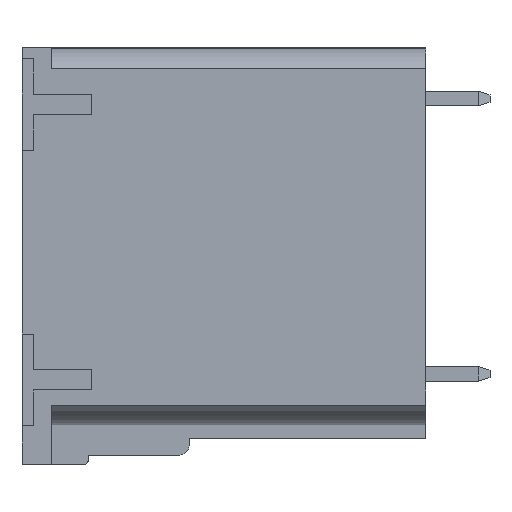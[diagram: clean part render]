
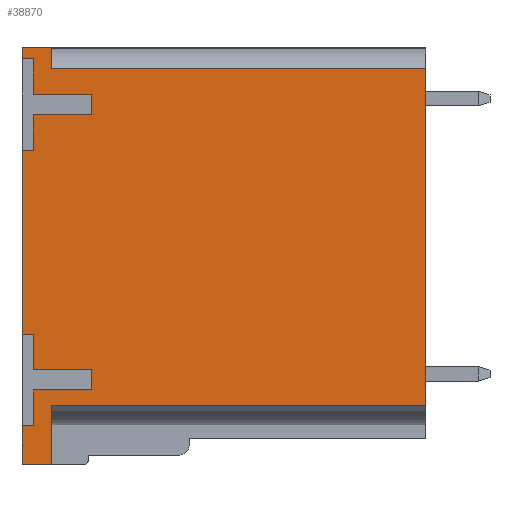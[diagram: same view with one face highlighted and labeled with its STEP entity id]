
A CAD part, left-side view. The second image highlights one B-rep face of the part: STEP entity #38870.
In plain terms, the highlighted planar face has unit normal (-1, 0, 0).
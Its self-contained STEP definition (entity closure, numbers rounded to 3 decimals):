
#18165=DIRECTION('',(0.,1.,0.));
#18166=VECTOR('',#18165,1.6);
#18167=CARTESIAN_POINT('',(2.805,20.4,-22.7));
#18168=LINE('',#18167,#18166);
#18193=DIRECTION('',(0.,0.,-1.));
#18194=VECTOR('',#18193,2.1);
#18195=CARTESIAN_POINT('',(2.805,22.,-20.6));
#18196=LINE('',#18195,#18194);
#18197=DIRECTION('',(0.,0.,-1.));
#18198=VECTOR('',#18197,10.);
#18199=CARTESIAN_POINT('',(2.805,22.,-5.6));
#18200=LINE('',#18199,#18198);
#18201=DIRECTION('',(0.,0.,-1.));
#18202=VECTOR('',#18201,0.6);
#18203=CARTESIAN_POINT('',(2.805,22.,0.));
#18204=LINE('',#18203,#18202);
#18205=DIRECTION('',(0.,1.,0.));
#18206=VECTOR('',#18205,1.6);
#18207=CARTESIAN_POINT('',(2.805,20.4,0.));
#18208=LINE('',#18207,#18206);
#18209=DIRECTION('',(0.,0.,1.));
#18210=VECTOR('',#18209,18.34);
#18211=CARTESIAN_POINT('',(2.805,0.,-19.47));
#18212=LINE('',#18211,#18210);
#18213=DIRECTION('',(0.,1.,0.));
#18214=VECTOR('',#18213,20.4);
#18215=CARTESIAN_POINT('',(2.805,0.,-19.47));
#18216=LINE('',#18215,#18214);
#18263=DIRECTION('',(0.,0.,-1.));
#18264=VECTOR('',#18263,3.23);
#18265=CARTESIAN_POINT('',(2.805,20.4,-19.47));
#18266=LINE('',#18265,#18264);
#18272=DIRECTION('',(0.,-1.,0.));
#18273=VECTOR('',#18272,0.6);
#18274=CARTESIAN_POINT('',(2.805,22.,-20.6));
#18275=LINE('',#18274,#18273);
#18284=DIRECTION('',(0.,0.,1.));
#18285=VECTOR('',#18284,1.95);
#18286=CARTESIAN_POINT('',(2.805,21.4,-20.6));
#18287=LINE('',#18286,#18285);
#18300=DIRECTION('',(0.,-1.,0.));
#18301=VECTOR('',#18300,3.2);
#18302=CARTESIAN_POINT('',(2.805,21.4,-18.65));
#18303=LINE('',#18302,#18301);
#18312=DIRECTION('',(0.,0.,1.));
#18313=VECTOR('',#18312,1.1);
#18314=CARTESIAN_POINT('',(2.805,18.2,-18.65));
#18315=LINE('',#18314,#18313);
#18324=DIRECTION('',(0.,1.,0.));
#18325=VECTOR('',#18324,3.2);
#18326=CARTESIAN_POINT('',(2.805,18.2,-17.55));
#18327=LINE('',#18326,#18325);
#18336=DIRECTION('',(0.,0.,1.));
#18337=VECTOR('',#18336,1.95);
#18338=CARTESIAN_POINT('',(2.805,21.4,-17.55));
#18339=LINE('',#18338,#18337);
#18348=DIRECTION('',(0.,1.,0.));
#18349=VECTOR('',#18348,0.6);
#18350=CARTESIAN_POINT('',(2.805,21.4,-15.6));
#18351=LINE('',#18350,#18349);
#18364=DIRECTION('',(0.,-1.,0.));
#18365=VECTOR('',#18364,0.6);
#18366=CARTESIAN_POINT('',(2.805,22.,-5.6));
#18367=LINE('',#18366,#18365);
#18376=DIRECTION('',(0.,0.,1.));
#18377=VECTOR('',#18376,1.95);
#18378=CARTESIAN_POINT('',(2.805,21.4,-5.6));
#18379=LINE('',#18378,#18377);
#18392=DIRECTION('',(0.,-1.,0.));
#18393=VECTOR('',#18392,3.2);
#18394=CARTESIAN_POINT('',(2.805,21.4,-3.65));
#18395=LINE('',#18394,#18393);
#18404=DIRECTION('',(0.,0.,1.));
#18405=VECTOR('',#18404,1.1);
#18406=CARTESIAN_POINT('',(2.805,18.2,-3.65));
#18407=LINE('',#18406,#18405);
#18416=DIRECTION('',(0.,1.,0.));
#18417=VECTOR('',#18416,3.2);
#18418=CARTESIAN_POINT('',(2.805,18.2,-2.55));
#18419=LINE('',#18418,#18417);
#18428=DIRECTION('',(0.,0.,1.));
#18429=VECTOR('',#18428,1.95);
#18430=CARTESIAN_POINT('',(2.805,21.4,-2.55));
#18431=LINE('',#18430,#18429);
#18440=DIRECTION('',(0.,1.,0.));
#18441=VECTOR('',#18440,0.6);
#18442=CARTESIAN_POINT('',(2.805,21.4,-0.6));
#18443=LINE('',#18442,#18441);
#18456=DIRECTION('',(0.,0.,-1.));
#18457=VECTOR('',#18456,1.13);
#18458=CARTESIAN_POINT('',(2.805,20.4,0.));
#18459=LINE('',#18458,#18457);
#18505=DIRECTION('',(0.,-1.,0.));
#18506=VECTOR('',#18505,20.4);
#18507=CARTESIAN_POINT('',(2.805,20.4,-1.13));
#18508=LINE('',#18507,#18506);
#22273=CARTESIAN_POINT('',(2.805,0.,-19.47));
#22274=VERTEX_POINT('',#22273);
#22275=CARTESIAN_POINT('',(2.805,0.,-1.13));
#22276=VERTEX_POINT('',#22275);
#22407=CARTESIAN_POINT('',(2.805,20.4,0.));
#22408=VERTEX_POINT('',#22407);
#22409=CARTESIAN_POINT('',(2.805,22.,0.));
#22410=VERTEX_POINT('',#22409);
#22529=CARTESIAN_POINT('',(2.805,22.,-0.6));
#22530=VERTEX_POINT('',#22529);
#22535=CARTESIAN_POINT('',(2.805,22.,-5.6));
#22536=VERTEX_POINT('',#22535);
#22537=CARTESIAN_POINT('',(2.805,22.,-15.6));
#22538=VERTEX_POINT('',#22537);
#22543=CARTESIAN_POINT('',(2.805,22.,-20.6));
#22544=VERTEX_POINT('',#22543);
#22545=CARTESIAN_POINT('',(2.805,22.,-22.7));
#22546=VERTEX_POINT('',#22545);
#22587=CARTESIAN_POINT('',(2.805,20.4,-19.47));
#22588=CARTESIAN_POINT('',(2.805,20.4,-22.7));
#22589=VERTEX_POINT('',#22587);
#22590=VERTEX_POINT('',#22588);
#22591=CARTESIAN_POINT('',(2.805,21.4,-20.6));
#22592=VERTEX_POINT('',#22591);
#22593=CARTESIAN_POINT('',(2.805,21.4,-18.65));
#22594=VERTEX_POINT('',#22593);
#22595=CARTESIAN_POINT('',(2.805,18.2,-18.65));
#22596=VERTEX_POINT('',#22595);
#22597=CARTESIAN_POINT('',(2.805,18.2,-17.55));
#22598=VERTEX_POINT('',#22597);
#22599=CARTESIAN_POINT('',(2.805,21.4,-17.55));
#22600=VERTEX_POINT('',#22599);
#22601=CARTESIAN_POINT('',(2.805,21.4,-15.6));
#22602=VERTEX_POINT('',#22601);
#22603=CARTESIAN_POINT('',(2.805,21.4,-5.6));
#22604=VERTEX_POINT('',#22603);
#22605=CARTESIAN_POINT('',(2.805,21.4,-3.65));
#22606=VERTEX_POINT('',#22605);
#22607=CARTESIAN_POINT('',(2.805,18.2,-3.65));
#22608=VERTEX_POINT('',#22607);
#22609=CARTESIAN_POINT('',(2.805,18.2,-2.55));
#22610=VERTEX_POINT('',#22609);
#22611=CARTESIAN_POINT('',(2.805,21.4,-2.55));
#22612=VERTEX_POINT('',#22611);
#22613=CARTESIAN_POINT('',(2.805,21.4,-0.6));
#22614=VERTEX_POINT('',#22613);
#22615=CARTESIAN_POINT('',(2.805,20.4,-1.13));
#22616=VERTEX_POINT('',#22615);
#38821=CARTESIAN_POINT('',(2.805,0.,-22.7));
#38822=DIRECTION('',(-1.,0.,0.));
#38823=DIRECTION('',(0.,0.,1.));
#38824=AXIS2_PLACEMENT_3D('',#38821,#38822,#38823);
#38825=PLANE('',#38824);
#38827=ORIENTED_EDGE('',*,*,#38826,.T.);
#38829=ORIENTED_EDGE('',*,*,#38828,.T.);
#38830=ORIENTED_EDGE('',*,*,#38805,.T.);
#38831=ORIENTED_EDGE('',*,*,#25970,.F.);
#38833=ORIENTED_EDGE('',*,*,#38832,.T.);
#38835=ORIENTED_EDGE('',*,*,#38834,.T.);
#38837=ORIENTED_EDGE('',*,*,#38836,.T.);
#38839=ORIENTED_EDGE('',*,*,#38838,.T.);
#38841=ORIENTED_EDGE('',*,*,#38840,.T.);
#38843=ORIENTED_EDGE('',*,*,#38842,.T.);
#38845=ORIENTED_EDGE('',*,*,#38844,.T.);
#38846=ORIENTED_EDGE('',*,*,#25962,.F.);
#38848=ORIENTED_EDGE('',*,*,#38847,.T.);
#38850=ORIENTED_EDGE('',*,*,#38849,.T.);
#38852=ORIENTED_EDGE('',*,*,#38851,.T.);
#38854=ORIENTED_EDGE('',*,*,#38853,.T.);
#38856=ORIENTED_EDGE('',*,*,#38855,.T.);
#38858=ORIENTED_EDGE('',*,*,#38857,.T.);
#38860=ORIENTED_EDGE('',*,*,#38859,.T.);
#38861=ORIENTED_EDGE('',*,*,#25954,.F.);
#38862=ORIENTED_EDGE('',*,*,#29344,.F.);
#38864=ORIENTED_EDGE('',*,*,#38863,.T.);
#38866=ORIENTED_EDGE('',*,*,#38865,.T.);
#38867=ORIENTED_EDGE('',*,*,#31810,.F.);
#38868=EDGE_LOOP('',(#38827,#38829,#38830,#38831,#38833,#38835,#38837,#38839,
#38841,#38843,#38845,#38846,#38848,#38850,#38852,#38854,#38856,#38858,#38860,
#38861,#38862,#38864,#38866,#38867));
#38869=FACE_OUTER_BOUND('',#38868,.F.);
#38870=ADVANCED_FACE('',(#38869),#38825,.T.);
#25954=EDGE_CURVE('',#22410,#22530,#18204,.T.);
#25962=EDGE_CURVE('',#22536,#22538,#18200,.T.);
#25970=EDGE_CURVE('',#22544,#22546,#18196,.T.);
#29344=EDGE_CURVE('',#22408,#22410,#18208,.T.);
#31810=EDGE_CURVE('',#22274,#22276,#18212,.T.);
#38805=EDGE_CURVE('',#22590,#22546,#18168,.T.);
#38826=EDGE_CURVE('',#22274,#22589,#18216,.T.);
#38828=EDGE_CURVE('',#22589,#22590,#18266,.T.);
#38832=EDGE_CURVE('',#22544,#22592,#18275,.T.);
#38834=EDGE_CURVE('',#22592,#22594,#18287,.T.);
#38836=EDGE_CURVE('',#22594,#22596,#18303,.T.);
#38838=EDGE_CURVE('',#22596,#22598,#18315,.T.);
#38840=EDGE_CURVE('',#22598,#22600,#18327,.T.);
#38842=EDGE_CURVE('',#22600,#22602,#18339,.T.);
#38844=EDGE_CURVE('',#22602,#22538,#18351,.T.);
#38847=EDGE_CURVE('',#22536,#22604,#18367,.T.);
#38849=EDGE_CURVE('',#22604,#22606,#18379,.T.);
#38851=EDGE_CURVE('',#22606,#22608,#18395,.T.);
#38853=EDGE_CURVE('',#22608,#22610,#18407,.T.);
#38855=EDGE_CURVE('',#22610,#22612,#18419,.T.);
#38857=EDGE_CURVE('',#22612,#22614,#18431,.T.);
#38859=EDGE_CURVE('',#22614,#22530,#18443,.T.);
#38863=EDGE_CURVE('',#22408,#22616,#18459,.T.);
#38865=EDGE_CURVE('',#22616,#22276,#18508,.T.);
